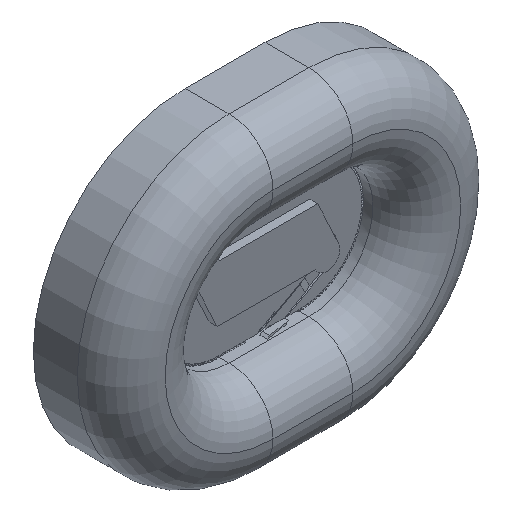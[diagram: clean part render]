
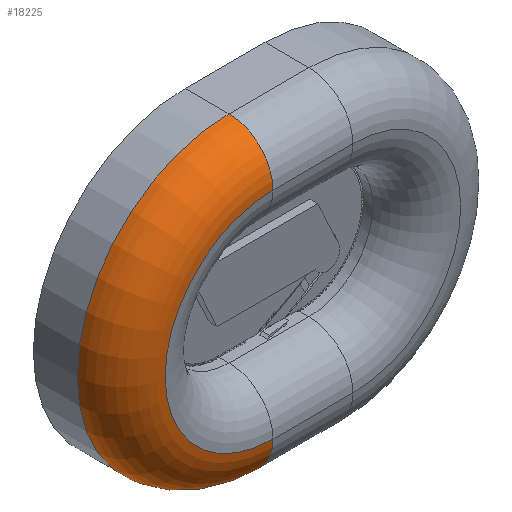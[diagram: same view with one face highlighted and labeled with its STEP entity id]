
A CAD part, isometric view. The second image highlights one B-rep face of the part: STEP entity #18225.
In plain terms, the highlighted toroidal (fillet/blend) face has major radius 135 mm and minor radius 55 mm.
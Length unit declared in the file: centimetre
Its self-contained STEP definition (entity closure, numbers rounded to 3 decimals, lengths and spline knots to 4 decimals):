
#37=TOROIDAL_SURFACE('',#19567,13.5,5.5);
#5905=FACE_OUTER_BOUND('',#6866,.T.);
#6866=EDGE_LOOP('',(#17131,#17132,#17133,#17134));
#7460=CIRCLE('',#19565,13.5);
#7462=CIRCLE('',#19568,5.5);
#7463=CIRCLE('',#19569,19.);
#7464=CIRCLE('',#19570,5.5);
#9221=VERTEX_POINT('',#29644);
#9222=VERTEX_POINT('',#29645);
#9225=VERTEX_POINT('',#29653);
#9226=VERTEX_POINT('',#29655);
#11876=EDGE_CURVE('',#9221,#9222,#7460,.T.);
#11880=EDGE_CURVE('',#9222,#9225,#7462,.T.);
#11881=EDGE_CURVE('',#9225,#9226,#7463,.T.);
#11882=EDGE_CURVE('',#9226,#9221,#7464,.T.);
#17131=ORIENTED_EDGE('',*,*,#11880,.T.);
#17132=ORIENTED_EDGE('',*,*,#11881,.T.);
#17133=ORIENTED_EDGE('',*,*,#11882,.T.);
#17134=ORIENTED_EDGE('',*,*,#11876,.T.);
#18225=ADVANCED_FACE('',(#5905),#37,.T.);
#19565=AXIS2_PLACEMENT_3D('',#29646,#24296,#24297);
#19567=AXIS2_PLACEMENT_3D('',#29652,#24302,#24303);
#19568=AXIS2_PLACEMENT_3D('',#29654,#24304,#24305);
#19569=AXIS2_PLACEMENT_3D('',#29656,#24306,#24307);
#19570=AXIS2_PLACEMENT_3D('',#29657,#24308,#24309);
#24296=DIRECTION('center_axis',(0.,1.,0.));
#24297=DIRECTION('ref_axis',(-1.,0.,0.));
#24302=DIRECTION('center_axis',(0.,-1.,0.));
#24303=DIRECTION('ref_axis',(0.,0.,-1.));
#24304=DIRECTION('center_axis',(-1.,0.,0.));
#24305=DIRECTION('ref_axis',(0.,-1.,0.));
#24306=DIRECTION('center_axis',(0.,-1.,0.));
#24307=DIRECTION('ref_axis',(-1.,0.,0.));
#24308=DIRECTION('center_axis',(-1.,0.,0.));
#24309=DIRECTION('ref_axis',(0.,0.,-1.));
#29644=CARTESIAN_POINT('',(-5.,-10.,-13.5));
#29645=CARTESIAN_POINT('',(-5.,-10.,13.5));
#29646=CARTESIAN_POINT('Origin',(-5.,-10.,0.));
#29652=CARTESIAN_POINT('Origin',(-5.,-4.5,0.));
#29653=CARTESIAN_POINT('',(-5.,-4.5,19.));
#29654=CARTESIAN_POINT('Origin',(-5.,-4.5,13.5));
#29655=CARTESIAN_POINT('',(-5.,-4.5,-19.));
#29656=CARTESIAN_POINT('Origin',(-5.,-4.5,0.));
#29657=CARTESIAN_POINT('Origin',(-5.,-4.5,-13.5));
